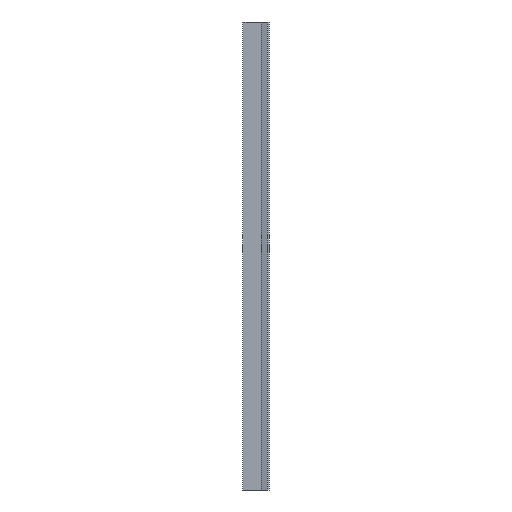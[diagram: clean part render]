
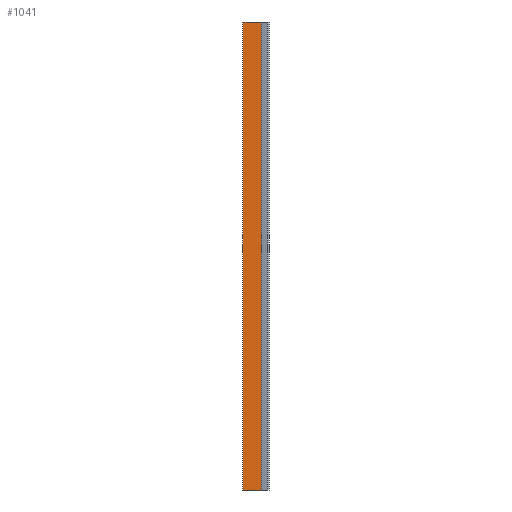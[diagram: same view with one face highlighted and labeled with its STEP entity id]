
A CAD part, left-side view. The second image highlights one B-rep face of the part: STEP entity #1041.
In plain terms, the highlighted planar face has unit normal (-1, 0, 0).
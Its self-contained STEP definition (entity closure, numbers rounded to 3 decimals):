
#63=FACE_OUTER_BOUND('',#117,.T.);
#117=EDGE_LOOP('',(#863,#864,#865,#866));
#218=LINE('',#1534,#362);
#249=LINE('',#1597,#393);
#258=LINE('',#1615,#402);
#259=LINE('',#1616,#403);
#362=VECTOR('',#1256,10.);
#393=VECTOR('',#1309,10.);
#402=VECTOR('',#1320,10.);
#403=VECTOR('',#1321,10.);
#477=VERTEX_POINT('',#1530);
#478=VERTEX_POINT('',#1532);
#499=VERTEX_POINT('',#1596);
#507=VERTEX_POINT('',#1614);
#602=EDGE_CURVE('',#478,#477,#218,.T.);
#633=EDGE_CURVE('',#477,#499,#249,.T.);
#642=EDGE_CURVE('',#507,#478,#258,.T.);
#643=EDGE_CURVE('',#499,#507,#259,.T.);
#863=ORIENTED_EDGE('',*,*,#642,.F.);
#864=ORIENTED_EDGE('',*,*,#643,.F.);
#865=ORIENTED_EDGE('',*,*,#633,.F.);
#866=ORIENTED_EDGE('',*,*,#602,.F.);
#989=PLANE('',#1095);
#1041=ADVANCED_FACE('',(#63),#989,.T.);
#1095=AXIS2_PLACEMENT_3D('',#1613,#1318,#1319);
#1256=DIRECTION('',(0.,0.,-1.));
#1309=DIRECTION('',(0.,1.,0.));
#1318=DIRECTION('center_axis',(-1.,0.,0.));
#1319=DIRECTION('ref_axis',(0.,0.,1.));
#1320=DIRECTION('',(0.,-1.,0.));
#1321=DIRECTION('',(0.,0.,1.));
#1530=CARTESIAN_POINT('',(-5.,-5.5,0.));
#1532=CARTESIAN_POINT('',(-5.,-5.5,140.));
#1534=CARTESIAN_POINT('',(-5.,-5.5,35.));
#1596=CARTESIAN_POINT('',(-5.,0.,0.));
#1597=CARTESIAN_POINT('',(-5.,-3.25,0.));
#1613=CARTESIAN_POINT('Origin',(-5.,-1.5,70.));
#1614=CARTESIAN_POINT('',(-5.,0.,140.));
#1615=CARTESIAN_POINT('',(-5.,-2.25,140.));
#1616=CARTESIAN_POINT('',(-5.,0.,105.));
